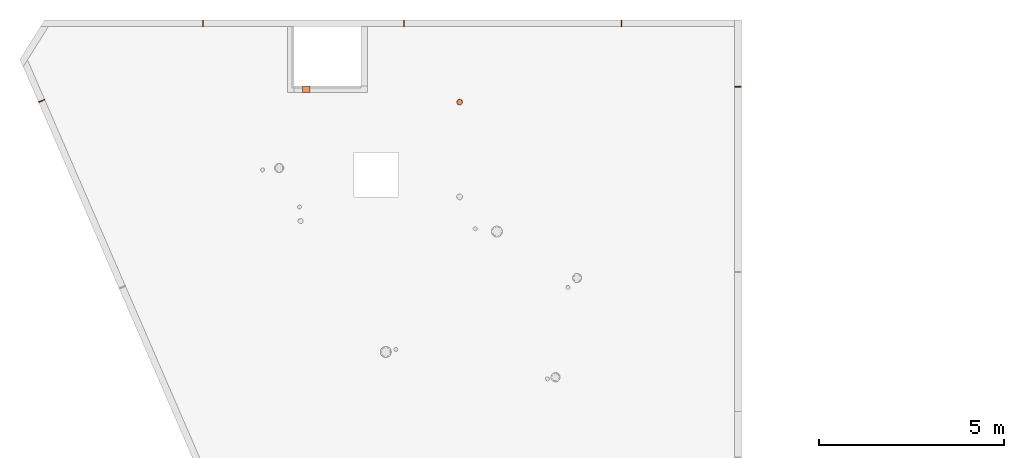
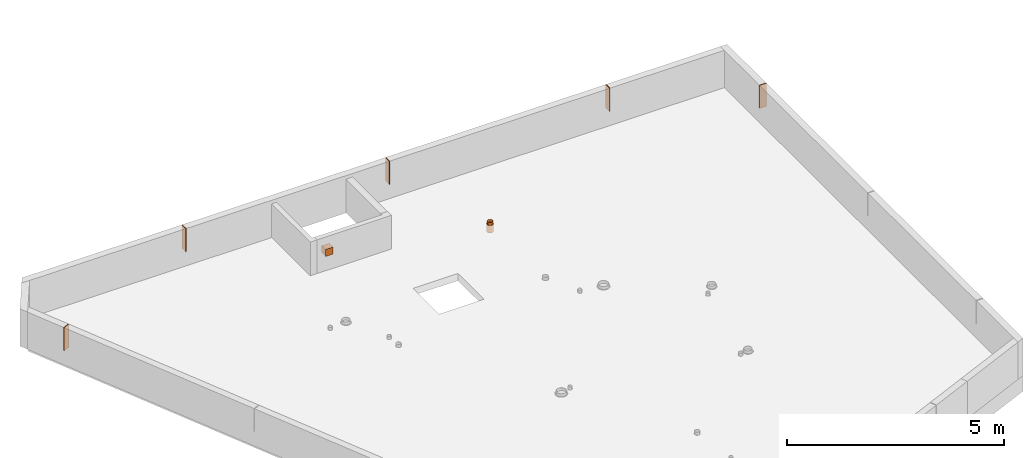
# One storey, part 6 of 12: 7 proxies.
"""IFC2X3 building model written with IfcOpenShell, lengths in centimetres."""

import ifcopenshell
import ifcopenshell.guid

model = None  # the IFC model being written
_history = None  # IfcOwnerHistory: only IFC2X3 demands one
_inside = {}  # id of a spatial element -> (the spatial element, [elements in it])
_under = {}  # id of a project, library or spatial element -> (it, [spatial elements below it])
_declared = {}  # id of a project -> (the project, [libraries it declares])
_typed = {}  # id of a type object -> (the type object, [elements of that type])
_made_of = {}  # id of a material, layer set ... -> (it, [elements and type objects made of it])


def new_model(schema):
    """Start an empty IFC model of exactly this schema.

    Asked for "IFC4X3", IfcOpenShell would pick the latest addendum, in which some entities
    have other attributes; the version numbers below select the first issue.
    IFC2X3 requires an IfcOwnerHistory on every rooted entity: one is made here for all.
    """
    global model, _history
    if schema == "IFC4X3":
        model = ifcopenshell.file(schema_version=(4, 3, 0, 0))
    else:
        model = ifcopenshell.file(schema=schema)
    _inside.clear()
    _under.clear()
    _declared.clear()
    _typed.clear()
    _made_of.clear()
    _history = None
    if model.schema == "IFC2X3":
        org = make("IfcOrganization", Name="unknown")
        user = make(
            "IfcPersonAndOrganization",
            ThePerson=make("IfcPerson", FamilyName="unknown"),
            TheOrganization=org,
        )
        app = make(
            "IfcApplication",
            ApplicationDeveloper=org,
            Version="unknown",
            ApplicationFullName="unknown",
            ApplicationIdentifier="unknown",
        )
        _history = make(
            "IfcOwnerHistory",
            OwningUser=user,
            OwningApplication=app,
            ChangeAction="ADDED",
            CreationDate=0,
        )
    return model


def make(cls, **values):
    """One entity of the class cls with the attributes given. An attribute that is None is left unset."""
    return model.create_entity(
        cls, **{name: value for name, value in values.items() if value is not None}
    )


def entity(cls, *values):
    """Any entity or typed value of the class cls, its attributes in the order of the schema. None: left unset."""
    e = model.create_entity(cls)
    for i, value in enumerate(values):
        if value is not None:
            e[i] = value
    return e


def rooted(cls, **values):
    """An entity with a GlobalId (a new one), such as an element, a storey or a relation."""
    return make(cls, GlobalId=ifcopenshell.guid.new(), OwnerHistory=_history, **values)


def si_unit(unit_type, name, prefix=None):
    """IfcSIUnit, for example si_unit("LENGTHUNIT", "METRE", prefix="MILLI")."""
    return make("IfcSIUnit", UnitType=unit_type, Prefix=prefix, Name=name)


def converted_unit(unit_type, name, factor, base, dimensions=None, offset=None):
    """IfcConversionBasedUnit, such as the inch: factor (a typed value) times the base unit."""
    return make(
        "IfcConversionBasedUnit"
        if offset is None
        else "IfcConversionBasedUnitWithOffset",
        ConversionOffset=offset,
        Dimensions=None
        if dimensions is None
        else entity("IfcDimensionalExponents", *dimensions),
        UnitType=unit_type,
        Name=name,
        ConversionFactor=make(
            "IfcMeasureWithUnit", ValueComponent=factor, UnitComponent=base
        ),
    )


def derived_unit(unit_type, elements):
    """IfcDerivedUnit: a product of units, each with its exponent."""
    return make(
        "IfcDerivedUnit",
        Elements=[
            make("IfcDerivedUnitElement", Unit=unit, Exponent=power)
            for unit, power in elements
        ],
        UnitType=unit_type,
    )


def assignment(units):
    """IfcUnitAssignment: the units of a project."""
    return None if units is None else make("IfcUnitAssignment", Units=units)


def point(xyz):
    """IfcCartesianPoint."""
    return None if xyz is None else make("IfcCartesianPoint", Coordinates=xyz)


def direction(xyz):
    """IfcDirection."""
    return None if xyz is None else make("IfcDirection", DirectionRatios=xyz)


def frame(location, z_axis=None, x_axis=None):
    """IfcAxis2Placement3D, a coordinate frame: its origin and axes. An axis left out is left unset."""
    return make(
        "IfcAxis2Placement3D",
        Location=point(location),
        Axis=direction(z_axis),
        RefDirection=direction(x_axis),
    )


def frame_2d(location, x_axis=None):
    """IfcAxis2Placement2D, a coordinate frame in the plane: its origin and x axis."""
    return make(
        "IfcAxis2Placement2D", Location=point(location), RefDirection=direction(x_axis)
    )


def origin():
    """The frame at (0, 0, 0) with its axes left unset."""
    return frame((0.0, 0.0, 0.0))


def place(relative_to, where):
    """IfcLocalPlacement: puts the frame where relative to a parent placement (None: the world)."""
    return make(
        "IfcLocalPlacement", PlacementRelTo=relative_to, RelativePlacement=where
    )


def context(
    kind, dimensions, precision=None, world=None, true_north=None, identifier=None
):
    """IfcGeometricRepresentationContext, for example the 3D "Model" context."""
    return make(
        "IfcGeometricRepresentationContext",
        ContextIdentifier=identifier,
        ContextType=kind,
        CoordinateSpaceDimension=dimensions,
        Precision=precision,
        WorldCoordinateSystem=world,
        TrueNorth=true_north,
    )


def subcontext(parent, identifier, kind, view, scale=None):
    """IfcGeometricRepresentationSubContext, for example "Body" below "Model"."""
    return make(
        "IfcGeometricRepresentationSubContext",
        ContextIdentifier=identifier,
        ContextType=kind,
        ParentContext=parent,
        TargetScale=scale,
        TargetView=view,
    )


def project(units=None, contexts=None):
    """IfcProject with its units and contexts."""
    return rooted(
        "IfcProject",
        Name="project",
        RepresentationContexts=contexts,
        UnitsInContext=assignment(units),
    )


def spatial(cls, under=None, at=None, **own):
    """A site, building, storey or space (cls), placed at a placement, below another one or the project."""
    s = rooted(cls, ObjectPlacement=at, **own)
    if under is not None:
        _under.setdefault(under.id(), (under, []))[1].append(s)
    return s


def profile(cls, at=None, kind="AREA", **sizes):
    """A parametric profile (cls). Its sizes go by their IFC names, for example OverallWidth=200.0."""
    return make(cls, ProfileType=kind, Position=at, **sizes)


def rectangle(**sizes):
    """IfcRectangleProfileDef."""
    return profile("IfcRectangleProfileDef", **sizes)


def circle(**sizes):
    """IfcCircleProfileDef."""
    return profile("IfcCircleProfileDef", **sizes)


def hollow_circle(**sizes):
    """IfcCircleHollowProfileDef."""
    return profile("IfcCircleHollowProfileDef", **sizes)


def extrude(swept, where, along, depth):
    """IfcExtrudedAreaSolid: the profile swept, set in the frame where, extruded along a direction by depth."""
    return make(
        "IfcExtrudedAreaSolid",
        SweptArea=swept,
        Position=where,
        ExtrudedDirection=direction(along),
        Depth=depth,
    )


def shape(context_of_items, identifier, shape_type, items):
    """IfcShapeRepresentation: the items that make up one representation, for example the "Body"."""
    return make(
        "IfcShapeRepresentation",
        ContextOfItems=context_of_items,
        RepresentationIdentifier=identifier,
        RepresentationType=shape_type,
        Items=items,
    )


def source(mapping_origin, context_of_items, identifier, shape_type, items):
    """IfcRepresentationMap: a shape defined once, which mapped items show again and again."""
    return make(
        "IfcRepresentationMap",
        MappingOrigin=mapping_origin,
        MappedRepresentation=shape(context_of_items, identifier, shape_type, items),
    )


def transform(
    local_origin,
    x_axis=None,
    y_axis=None,
    z_axis=None,
    scale=None,
    scale2=None,
    scale3=None,
    uniform=True,
):
    """IfcCartesianTransformationOperator3D, or its non-uniform kind. x_axis, y_axis, z_axis: its Axis1, 2, 3."""
    if uniform:
        return make(
            "IfcCartesianTransformationOperator3D",
            Axis1=direction(x_axis),
            Axis2=direction(y_axis),
            LocalOrigin=point(local_origin),
            Scale=scale,
            Axis3=direction(z_axis),
        )
    return make(
        "IfcCartesianTransformationOperator3DnonUniform",
        Axis1=direction(x_axis),
        Axis2=direction(y_axis),
        LocalOrigin=point(local_origin),
        Scale=scale,
        Axis3=direction(z_axis),
        Scale2=scale2,
        Scale3=scale3,
    )


def mapped(mapping_source, mapping_target):
    """IfcMappedItem: shows the shape of a source again, moved by a transform."""
    return make(
        "IfcMappedItem", MappingSource=mapping_source, MappingTarget=mapping_target
    )


def material(Name=None, Category=None):
    """IfcMaterial."""
    return make("IfcMaterial", Name=Name, Category=Category)


def made_of(thing, what):
    """Note that an element or type object is made of a material, layer set ...; save() writes the relation."""
    if what is not None:
        _made_of.setdefault(what.id(), (what, []))[1].append(thing)
    return thing


def type_object(cls, material=None, **own):
    """A type object (cls), such as IfcWallType, which elements share."""
    return made_of(rooted(cls, **own), material)


def type_shapes(of_type, sources):
    """Give a type object the sources (RepresentationMaps) that its elements show as mapped items."""
    of_type.RepresentationMaps = sources


def element(
    cls,
    number,
    at=None,
    inside=None,
    cuts=None,
    type_object=None,
    material=None,
    context=None,
    identifier="Body",
    shape_type=None,
    held_by="IfcProductDefinitionShape",
    body=None,
    shapes=None,
    **own,
):
    """One element of the class cls, such as IfcWall. Its Tag is "e" and its number.

    at: its placement. inside: the storey or other place that contains it. cuts: it is an
    opening in that element (IfcRelVoidsElement). A single representation is given by context,
    identifier, shape_type and body (its items); several are given by shapes. held_by: the class
    of the entity that holds the representations. save() writes the other relations.
    """
    e = rooted(cls, Tag="e%d" % number, ObjectPlacement=at, **own)
    if body is not None:
        shapes = [shape(context, identifier, shape_type, body)]
    if shapes is not None:
        e.Representation = make(held_by, Representations=shapes)
    if inside is not None:
        _inside.setdefault(inside.id(), (inside, []))[1].append(e)
    if cuts is not None:
        rooted(
            "IfcRelVoidsElement", RelatingBuildingElement=cuts, RelatedOpeningElement=e
        )
    if type_object is not None:
        _typed.setdefault(type_object.id(), (type_object, []))[1].append(e)
    return made_of(e, material)


def aggregate(whole, parts):
    """IfcRelAggregates: a whole, such as a stair, and the parts it consists of."""
    return rooted("IfcRelAggregates", RelatingObject=whole, RelatedObjects=parts)


def save(model, path):
    """Write the relations noted so far, then the file.

    IfcRelAggregates (storeys below a building ...), IfcRelContainedInSpatialStructure (elements
    in a storey), IfcRelDefinesByType, IfcRelAssociatesMaterial and IfcRelDeclares: one each for
    every whole, place, type object, material and project.
    """
    for whole, parts in _under.values():
        aggregate(whole, parts)
    for where, things in _inside.values():
        rooted(
            "IfcRelContainedInSpatialStructure",
            RelatedElements=things,
            RelatingStructure=where,
        )
    for kind, things in _typed.values():
        rooted("IfcRelDefinesByType", RelatedObjects=things, RelatingType=kind)
    for what, things in _made_of.values():
        rooted("IfcRelAssociatesMaterial", RelatedObjects=things, RelatingMaterial=what)
    for by, libraries in _declared.values():
        rooted("IfcRelDeclares", RelatingContext=by, RelatedDefinitions=libraries)
    model.write(path)


model = new_model("IFC2X3")

# Units and contexts
model_context = context("Model", 3, precision=0.001, world=origin(), true_north=direction((6.12303176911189e-17, 1.0)))
body_context = subcontext(model_context, "Body", "Model", "MODEL_VIEW")
ifc_project = project(units=[si_unit("LENGTHUNIT", "METRE", prefix="CENTI"), si_unit("AREAUNIT", "SQUARE_METRE"), si_unit("VOLUMEUNIT", "CUBIC_METRE"), converted_unit("PLANEANGLEUNIT", "DEGREE", entity("IfcRatioMeasure", 0.0174532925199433), si_unit("PLANEANGLEUNIT", "RADIAN"), dimensions=[0, 0, 0, 0, 0, 0, 0]), si_unit("MASSUNIT", "GRAM", prefix="KILO"), derived_unit("MASSDENSITYUNIT", [(si_unit("MASSUNIT", "GRAM", prefix="KILO"), 1), (si_unit("LENGTHUNIT", "METRE"), -3)]), si_unit("TIMEUNIT", "SECOND"), si_unit("FREQUENCYUNIT", "HERTZ"), si_unit("THERMODYNAMICTEMPERATUREUNIT", "DEGREE_CELSIUS"), derived_unit("THERMALTRANSMITTANCEUNIT", [(si_unit("MASSUNIT", "GRAM", prefix="KILO"), 1), (si_unit("THERMODYNAMICTEMPERATUREUNIT", "KELVIN"), -1), (si_unit("TIMEUNIT", "SECOND"), -3)]), derived_unit("VOLUMETRICFLOWRATEUNIT", [(si_unit("LENGTHUNIT", "METRE"), 3), (si_unit("TIMEUNIT", "SECOND"), -1)]), si_unit("ELECTRICCURRENTUNIT", "AMPERE"), si_unit("ELECTRICVOLTAGEUNIT", "VOLT"), si_unit("POWERUNIT", "WATT"), si_unit("FORCEUNIT", "NEWTON"), si_unit("ILLUMINANCEUNIT", "LUX"), si_unit("LUMINOUSFLUXUNIT", "LUMEN"), si_unit("LUMINOUSINTENSITYUNIT", "CANDELA"), derived_unit("USERDEFINED", [(si_unit("MASSUNIT", "GRAM", prefix="KILO"), -1), (si_unit("LENGTHUNIT", "METRE"), -2), (si_unit("TIMEUNIT", "SECOND"), 3), (si_unit("LUMINOUSFLUXUNIT", "LUMEN"), 1)]), derived_unit("LINEARVELOCITYUNIT", [(si_unit("LENGTHUNIT", "METRE"), 1), (si_unit("TIMEUNIT", "SECOND"), -1)]), si_unit("PRESSUREUNIT", "PASCAL"), derived_unit("USERDEFINED", [(si_unit("LENGTHUNIT", "METRE"), -2), (si_unit("MASSUNIT", "GRAM", prefix="KILO"), 1), (si_unit("TIMEUNIT", "SECOND"), -2)])], contexts=[model_context])

# Site, building, storey
site_placement = place(None, origin())
site = spatial("IfcSite", under=ifc_project, at=site_placement, Name="Default", CompositionType="ELEMENT")
building_placement = place(site_placement, origin())
building = spatial("IfcBuilding", under=site, at=building_placement, Name="CAGE 03", CompositionType="ELEMENT")
storey_placement = place(building_placement, frame((0.0, 0.0, 1690.0)))
storey = spatial("IfcBuildingStorey", under=building, at=storey_placement, Name="R+6", CompositionType="ELEMENT", Elevation=1690.0)

# Proxies
ifc_material_1 = material(Name="BBGO_Résa")
building_element_proxy_type_1 = type_object("IfcBuildingElementProxyType", Name="J.F.", PredefinedType="NOTDEFINED", material=ifc_material_1)
shared_shape_1 = source(origin(), body_context, "Body", "SweptSolid", [
    extrude(rectangle(XDim=17.9999999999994, YDim=1.99999999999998, at=frame_2d((4.33431068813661e-13, 2.16604512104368e-13), x_axis=(1.0, 0.0))), frame((3426.36582014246, 5119.66066607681, 1730.0), z_axis=(0.0, 0.0, 1.0), x_axis=(0.0, 1.0, 0.0)), (0.0, 0.0, 1.0), 64.9999999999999),
])
type_shapes(building_element_proxy_type_1, [shared_shape_1])
proxy_1_placement = place(storey_placement, frame((0.0, 0.0, -1690.0)))
element("IfcBuildingElementProxy", 1, at=proxy_1_placement, inside=storey, type_object=building_element_proxy_type_1, material=ifc_material_1, Name="BBGO-Résa rect et circ:J.F.", ObjectType="J.F.", context=body_context, shape_type="MappedRepresentation", body=[
    mapped(shared_shape_1, transform((0.0, 0.0, 0.0), scale=1.0)),
])
building_element_proxy_type_2 = type_object("IfcBuildingElementProxyType", Name="J.F.", PredefinedType="NOTDEFINED", material=ifc_material_1)
shared_shape_2 = source(origin(), body_context, "Body", "SweptSolid", [
    extrude(rectangle(XDim=17.9999999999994, YDim=2.00000000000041, at=frame_2d((4.33431068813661e-13, -4.33209024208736e-13), x_axis=(1.0, 0.0))), frame((3968.36582014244, 5119.66066607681, 1730.0), z_axis=(0.0, 0.0, 1.0), x_axis=(0.0, 1.0, 0.0)), (0.0, 0.0, 1.0), 64.9999999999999),
])
type_shapes(building_element_proxy_type_2, [shared_shape_2])
proxy_2_placement = place(storey_placement, frame((0.0, 0.0, -1690.0)))
element("IfcBuildingElementProxy", 2, at=proxy_2_placement, inside=storey, type_object=building_element_proxy_type_2, material=ifc_material_1, Name="BBGO-Résa rect et circ:J.F.", ObjectType="J.F.", context=body_context, shape_type="MappedRepresentation", body=[
    mapped(shared_shape_2, transform((0.0, 0.0, 0.0), scale=1.0)),
])
building_element_proxy_type_3 = type_object("IfcBuildingElementProxyType", Name="J.F.", PredefinedType="NOTDEFINED", material=ifc_material_1)
shared_shape_3 = source(origin(), body_context, "Body", "SweptSolid", [
    extrude(rectangle(XDim=17.9999999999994, YDim=2.00000000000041, at=frame_2d((4.33431068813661e-13, -4.33209024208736e-13), x_axis=(1.0, 0.0))), frame((4555.36582014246, 5119.6606660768, 1730.0), z_axis=(0.0, 0.0, 1.0), x_axis=(0.0, 1.0, 0.0)), (0.0, 0.0, 1.0), 64.9999999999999),
])
type_shapes(building_element_proxy_type_3, [shared_shape_3])
proxy_3_placement = place(storey_placement, frame((0.0, 0.0, -1690.0)))
element("IfcBuildingElementProxy", 3, at=proxy_3_placement, inside=storey, type_object=building_element_proxy_type_3, material=ifc_material_1, Name="BBGO-Résa rect et circ:J.F.", ObjectType="J.F.", context=body_context, shape_type="MappedRepresentation", body=[
    mapped(shared_shape_3, transform((0.0, 0.0, 0.0), scale=1.0)),
])
building_element_proxy_type_4 = type_object("IfcBuildingElementProxyType", Name="J.F.", PredefinedType="NOTDEFINED", material=ifc_material_1)
shared_shape_4 = source(origin(), body_context, "Body", "SweptSolid", [
    extrude(rectangle(XDim=17.9999999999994, YDim=2.00000000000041, at=frame_2d((4.33431068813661e-13, 4.33209024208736e-13), x_axis=(1.0, 0.0))), frame((4869.36582014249, 4948.66066607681, 1730.0)), (0.0, 0.0, 1.0), 64.9999999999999),
])
type_shapes(building_element_proxy_type_4, [shared_shape_4])
proxy_4_placement = place(storey_placement, frame((0.0, 0.0, -1690.0)))
element("IfcBuildingElementProxy", 4, at=proxy_4_placement, inside=storey, type_object=building_element_proxy_type_4, material=ifc_material_1, Name="BBGO-Résa rect et circ:J.F.", ObjectType="J.F.", context=body_context, shape_type="MappedRepresentation", body=[
    mapped(shared_shape_4, transform((0.0, 0.0, 0.0), scale=1.0)),
])
building_element_proxy_type_5 = type_object("IfcBuildingElementProxyType", Name="J.F.", PredefinedType="NOTDEFINED", material=ifc_material_1)
shared_shape_5 = source(origin(), body_context, "Body", "SweptSolid", [
    extrude(rectangle(XDim=17.9999999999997, YDim=1.99999999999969, at=frame_2d((3.70370401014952e-13, 3.11528580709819e-13), x_axis=(1.0, 0.0))), frame((2991.28043357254, 4910.56056999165, 1730.0), z_axis=(0.0, 0.0, 1.0), x_axis=(0.917772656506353, 0.397106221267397, 0.0)), (0.0, 0.0, 1.0), 64.9999999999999),
])
type_shapes(building_element_proxy_type_5, [shared_shape_5])
proxy_5_placement = place(storey_placement, frame((0.0, 0.0, -1690.0)))
element("IfcBuildingElementProxy", 5, at=proxy_5_placement, inside=storey, type_object=building_element_proxy_type_5, material=ifc_material_1, Name="BBGO-Résa rect et circ:J.F.", ObjectType="J.F.", context=body_context, shape_type="MappedRepresentation", body=[
    mapped(shared_shape_5, transform((0.0, 0.0, 0.0), scale=1.0)),
])
building_element_proxy_type_6 = type_object("IfcBuildingElementProxyType", Name="Réservation", PredefinedType="NOTDEFINED", material=ifc_material_1)
shared_shape_6 = source(origin(), body_context, "Body", "SweptSolid", [
    extrude(rectangle(XDim=17.9999999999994, YDim=19.9999999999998, at=frame_2d((4.33431068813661e-13, 4.33431068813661e-13), x_axis=(1.0, 0.0))), frame((3705.36582014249, 4941.66066607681, 1730.0), z_axis=(0.0, 0.0, 1.0), x_axis=(0.0, 1.0, 0.0)), (0.0, 0.0, 1.0), 20.0),
])
type_shapes(building_element_proxy_type_6, [shared_shape_6])
proxy_6_placement = place(storey_placement, frame((0.0, 0.0, -1690.0)))
element("IfcBuildingElementProxy", 6, at=proxy_6_placement, inside=storey, type_object=building_element_proxy_type_6, material=ifc_material_1, Name="BBGO-Résa rect et circ:Réservation", ObjectType="Réservation", context=body_context, shape_type="MappedRepresentation", body=[
    mapped(shared_shape_6, transform((0.0, 0.0, 0.0), scale=1.0)),
])
ifc_material_2 = material(Name="Conduit EP")
building_element_proxy_type_7 = type_object("IfcBuildingElementProxyType", Name="EP 141", PredefinedType="NOTDEFINED", material=ifc_material_2)
shared_shape_7 = source(origin(), body_context, "Body", "SweptSolid", [
    extrude(circle(Radius=8.0, at=frame_2d((0.0, -1.29243565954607e-14), x_axis=(1.0, 0.0))), frame((0.0, 0.0, -21.0)), (0.0, 0.0, 1.0), 21.0),
    extrude(hollow_circle(Radius=7.0, WallThickness=0.25, at=frame_2d((0.0, -1.13088120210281e-14), x_axis=(1.0, 0.0))), frame((0.0, 0.0, -21.0)), (0.0, 0.0, 1.0), 28.5),
])
type_shapes(building_element_proxy_type_7, [shared_shape_7])
proxy_7_placement = place(storey_placement, frame((4118.73556432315, 4907.15627952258, 0.0)))
element("IfcBuildingElementProxy", 7, at=proxy_7_placement, inside=storey, type_object=building_element_proxy_type_7, material=ifc_material_2, Name="Galette - Résa - PVC5:EP 141", ObjectType="EP 141", context=body_context, shape_type="MappedRepresentation", body=[
    mapped(shared_shape_7, transform((0.0, 0.0, 0.0), scale=1.0)),
])

save(model, "model.ifc")
